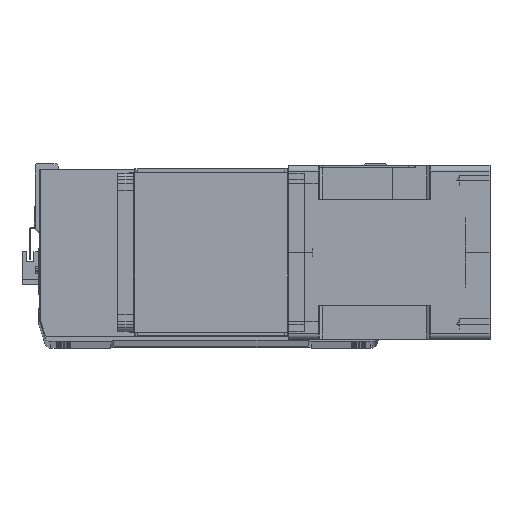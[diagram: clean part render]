
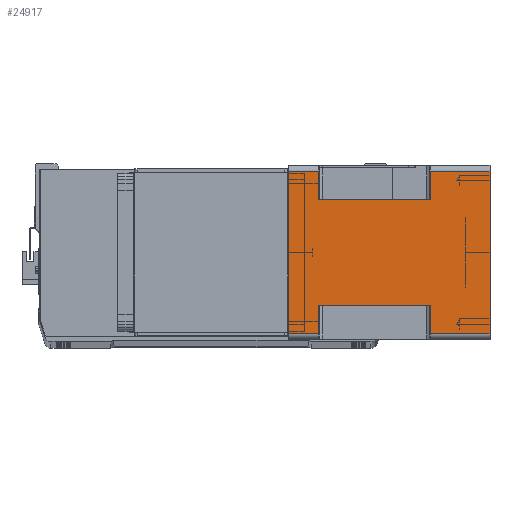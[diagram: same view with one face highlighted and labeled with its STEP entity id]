
A CAD part, top view. The second image highlights one B-rep face of the part: STEP entity #24917.
In plain terms, the highlighted planar face has unit normal (0, 0, 1) as drawn and (1, 0, 0) by its records, which use the part's own axes.
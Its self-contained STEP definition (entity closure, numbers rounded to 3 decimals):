
#44 = VECTOR ( 'NONE', #19710, 1000. ) ;
#363 = FACE_OUTER_BOUND ( 'NONE', #21935, .T. ) ;
#509 = ORIENTED_EDGE ( 'NONE', *, *, #3463, .F. ) ;
#547 = CARTESIAN_POINT ( 'NONE',  ( 71., -43., -164. ) ) ;
#732 = DIRECTION ( 'NONE',  ( 0., 0., 1. ) ) ;
#1064 = LINE ( 'NONE', #31060, #32812 ) ;
#1106 = CARTESIAN_POINT ( 'NONE',  ( 71., 43., -24.5 ) ) ;
#1312 = ORIENTED_EDGE ( 'NONE', *, *, #29725, .T. ) ;
#1453 = VERTEX_POINT ( 'NONE', #26318 ) ;
#1817 = CARTESIAN_POINT ( 'NONE',  ( 71., 66., -24.5 ) ) ;
#2478 = VECTOR ( 'NONE', #10994, 1000. ) ;
#2999 = VERTEX_POINT ( 'NONE', #9515 ) ;
#3019 = VERTEX_POINT ( 'NONE', #20397 ) ;
#3463 = EDGE_CURVE ( 'NONE', #10552, #1453, #9868, .T. ) ;
#3787 = DIRECTION ( 'NONE',  ( 0., 1., 0. ) ) ;
#4038 = DIRECTION ( 'NONE',  ( 0., -1., 0. ) ) ;
#4589 = LINE ( 'NONE', #8241, #2478 ) ;
#5494 = ORIENTED_EDGE ( 'NONE', *, *, #20951, .T. ) ;
#5594 = DIRECTION ( 'NONE',  ( 0., 1., 0. ) ) ;
#6470 = ORIENTED_EDGE ( 'NONE', *, *, #17486, .F. ) ;
#6570 = LINE ( 'NONE', #28650, #33185 ) ;
#7409 = CARTESIAN_POINT ( 'NONE',  ( 71., 66., -164. ) ) ;
#7637 = CARTESIAN_POINT ( 'NONE',  ( 71., -66., -164. ) ) ;
#7740 = VECTOR ( 'NONE', #29180, 1000. ) ;
#7760 = PLANE ( 'NONE',  #20045 ) ;
#8241 = CARTESIAN_POINT ( 'NONE',  ( 71., 43., -164. ) ) ;
#8624 = ORIENTED_EDGE ( 'NONE', *, *, #26422, .T. ) ;
#8959 = LINE ( 'NONE', #547, #44 ) ;
#8994 = VECTOR ( 'NONE', #33599, 1000. ) ;
#9515 = CARTESIAN_POINT ( 'NONE',  ( 71., 66., -164. ) ) ;
#9868 = LINE ( 'NONE', #17318, #8994 ) ;
#9966 = VERTEX_POINT ( 'NONE', #13787 ) ;
#10552 = VERTEX_POINT ( 'NONE', #24367 ) ;
#10994 = DIRECTION ( 'NONE',  ( 0., 0., -1. ) ) ;
#11859 = CARTESIAN_POINT ( 'NONE',  ( 71., -43., -24.5 ) ) ;
#12546 = EDGE_CURVE ( 'NONE', #32938, #32530, #15569, .T. ) ;
#13065 = CARTESIAN_POINT ( 'NONE',  ( 71., 43., -115.5 ) ) ;
#13528 = CARTESIAN_POINT ( 'NONE',  ( 71., -66., -24.5 ) ) ;
#13579 = EDGE_CURVE ( 'NONE', #18929, #1453, #6570, .T. ) ;
#13787 = CARTESIAN_POINT ( 'NONE',  ( 71., -66., 0. ) ) ;
#14429 = CARTESIAN_POINT ( 'NONE',  ( 71., -66., -24.5 ) ) ;
#14629 = ORIENTED_EDGE ( 'NONE', *, *, #24384, .F. ) ;
#14959 = LINE ( 'NONE', #7409, #7740 ) ;
#15569 = LINE ( 'NONE', #13065, #17242 ) ;
#15621 = DIRECTION ( 'NONE',  ( 0., 1., 0. ) ) ;
#15778 = DIRECTION ( 'NONE',  ( 0., -1., 0. ) ) ;
#15978 = VECTOR ( 'NONE', #732, 1000. ) ;
#16751 = ORIENTED_EDGE ( 'NONE', *, *, #24859, .T. ) ;
#16752 = VECTOR ( 'NONE', #3787, 1000. ) ;
#16809 = ORIENTED_EDGE ( 'NONE', *, *, #30571, .F. ) ;
#17057 = DIRECTION ( 'NONE',  ( 0., 0., 1. ) ) ;
#17242 = VECTOR ( 'NONE', #15778, 1000. ) ;
#17303 = ORIENTED_EDGE ( 'NONE', *, *, #34122, .T. ) ;
#17318 = CARTESIAN_POINT ( 'NONE',  ( 71., -66., -164. ) ) ;
#17486 = EDGE_CURVE ( 'NONE', #9966, #3019, #34573, .T. ) ;
#18778 = ORIENTED_EDGE ( 'NONE', *, *, #12546, .T. ) ;
#18929 = VERTEX_POINT ( 'NONE', #24722 ) ;
#19160 = CARTESIAN_POINT ( 'NONE',  ( 71., 43., -115.5 ) ) ;
#19365 = DIRECTION ( 'NONE',  ( 0., 1., 0. ) ) ;
#19710 = DIRECTION ( 'NONE',  ( 0., 0., 1. ) ) ;
#19907 = ORIENTED_EDGE ( 'NONE', *, *, #28965, .F. ) ;
#20028 = CARTESIAN_POINT ( 'NONE',  ( 71., 66., -164. ) ) ;
#20045 = AXIS2_PLACEMENT_3D ( 'NONE', #7637, #26697, #29162 ) ;
#20397 = CARTESIAN_POINT ( 'NONE',  ( 71., 66., 0. ) ) ;
#20951 = EDGE_CURVE ( 'NONE', #27847, #3019, #14959, .T. ) ;
#21670 = LINE ( 'NONE', #33454, #29260 ) ;
#21935 = EDGE_LOOP ( 'NONE', ( #16809, #35095, #509, #8624, #1312, #18778, #19907, #16751, #5494, #6470, #14629, #17303 ) ) ;
#22783 = VERTEX_POINT ( 'NONE', #1106 ) ;
#23173 = LINE ( 'NONE', #20028, #15978 ) ;
#24367 = CARTESIAN_POINT ( 'NONE',  ( 71., -66., -164. ) ) ;
#24384 = EDGE_CURVE ( 'NONE', #30000, #9966, #21670, .T. ) ;
#24722 = CARTESIAN_POINT ( 'NONE',  ( 71., -43., -115.5 ) ) ;
#24859 = EDGE_CURVE ( 'NONE', #22783, #27847, #32117, .T. ) ;
#24862 = VECTOR ( 'NONE', #5594, 1000. ) ;
#24917 = ADVANCED_FACE ( 'NONE', ( #363 ), #7760, .T. ) ;
#25647 = LINE ( 'NONE', #11859, #16752 ) ;
#26296 = CARTESIAN_POINT ( 'NONE',  ( 71., -66., 0. ) ) ;
#26318 = CARTESIAN_POINT ( 'NONE',  ( 71., -66., -115.5 ) ) ;
#26422 = EDGE_CURVE ( 'NONE', #10552, #2999, #1064, .T. ) ;
#26697 = DIRECTION ( 'NONE',  ( 1., 0., 0. ) ) ;
#27224 = VERTEX_POINT ( 'NONE', #33899 ) ;
#27847 = VERTEX_POINT ( 'NONE', #1817 ) ;
#28650 = CARTESIAN_POINT ( 'NONE',  ( 71., -66., -115.5 ) ) ;
#28965 = EDGE_CURVE ( 'NONE', #22783, #32530, #4589, .T. ) ;
#29162 = DIRECTION ( 'NONE',  ( 0., 1., 0. ) ) ;
#29180 = DIRECTION ( 'NONE',  ( 0., 0., 1. ) ) ;
#29260 = VECTOR ( 'NONE', #17057, 1000. ) ;
#29316 = CARTESIAN_POINT ( 'NONE',  ( 71., 66., -115.5 ) ) ;
#29725 = EDGE_CURVE ( 'NONE', #2999, #32938, #23173, .T. ) ;
#30000 = VERTEX_POINT ( 'NONE', #13528 ) ;
#30571 = EDGE_CURVE ( 'NONE', #18929, #27224, #8959, .T. ) ;
#30860 = VECTOR ( 'NONE', #19365, 1000. ) ;
#31060 = CARTESIAN_POINT ( 'NONE',  ( 71., -66., -164. ) ) ;
#32117 = LINE ( 'NONE', #14429, #30860 ) ;
#32530 = VERTEX_POINT ( 'NONE', #19160 ) ;
#32812 = VECTOR ( 'NONE', #15621, 1000. ) ;
#32938 = VERTEX_POINT ( 'NONE', #29316 ) ;
#33185 = VECTOR ( 'NONE', #4038, 1000. ) ;
#33454 = CARTESIAN_POINT ( 'NONE',  ( 71., -66., -164. ) ) ;
#33599 = DIRECTION ( 'NONE',  ( 0., 0., 1. ) ) ;
#33899 = CARTESIAN_POINT ( 'NONE',  ( 71., -43., -24.5 ) ) ;
#34122 = EDGE_CURVE ( 'NONE', #30000, #27224, #25647, .T. ) ;
#34573 = LINE ( 'NONE', #26296, #24862 ) ;
#35095 = ORIENTED_EDGE ( 'NONE', *, *, #13579, .T. ) ;
